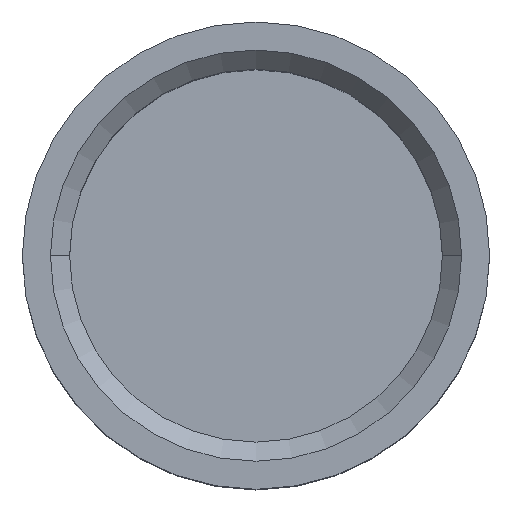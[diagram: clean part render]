
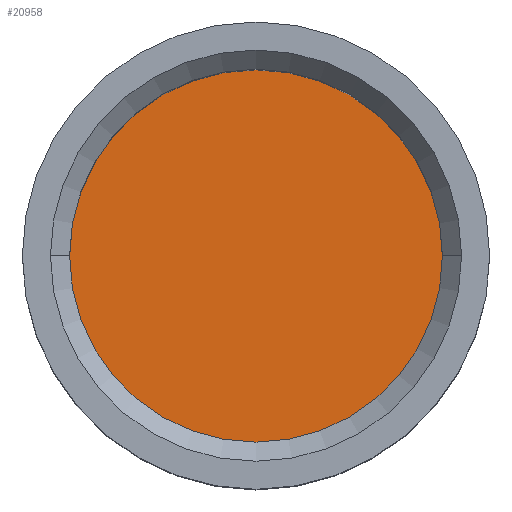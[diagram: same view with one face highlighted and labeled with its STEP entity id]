
A CAD part, top view. The second image highlights one B-rep face of the part: STEP entity #20958.
In plain terms, the highlighted planar face has unit normal (0, 0, 1).
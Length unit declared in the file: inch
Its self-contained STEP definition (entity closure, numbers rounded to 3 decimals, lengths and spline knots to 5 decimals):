
#311 = CIRCLE ( 'NONE', #4980, 0.073 ) ;
#2301 = VERTEX_POINT ( 'NONE', #8454 ) ;
#2744 = AXIS2_PLACEMENT_3D ( 'NONE', #14101, #12513, #9024 ) ;
#3328 = DIRECTION ( 'NONE',  ( 0., 0., 1. ) ) ;
#3596 = CARTESIAN_POINT ( 'NONE',  ( -0.073, 0., -0.14 ) ) ;
#4138 = EDGE_LOOP ( 'NONE', ( #17718, #13011 ) ) ;
#4854 = CARTESIAN_POINT ( 'NONE',  ( 0., 0.073, -0.14 ) ) ;
#4980 = AXIS2_PLACEMENT_3D ( 'NONE', #11884, #3328, #13474 ) ;
#6855 = VERTEX_POINT ( 'NONE', #3596 ) ;
#8454 = CARTESIAN_POINT ( 'NONE',  ( 0.073, 0., -0.14 ) ) ;
#8966 = EDGE_CURVE ( 'NONE', #2301, #6855, #22173, .T. ) ;
#9024 = DIRECTION ( 'NONE',  ( 1., 0., 0. ) ) ;
#9606 = DIRECTION ( 'NONE',  ( -1., 0., 0. ) ) ;
#11619 = FACE_OUTER_BOUND ( 'NONE', #4138, .T. ) ;
#11884 = CARTESIAN_POINT ( 'NONE',  ( 0., 0., -0.14 ) ) ;
#12513 = DIRECTION ( 'NONE',  ( 0., 0., 1. ) ) ;
#13011 = ORIENTED_EDGE ( 'NONE', *, *, #14205, .T. ) ;
#13474 = DIRECTION ( 'NONE',  ( 1., 0., 0. ) ) ;
#13745 = AXIS2_PLACEMENT_3D ( 'NONE', #4854, #14688, #9606 ) ;
#14101 = CARTESIAN_POINT ( 'NONE',  ( 0., 0., -0.14 ) ) ;
#14205 = EDGE_CURVE ( 'NONE', #6855, #2301, #311, .T. ) ;
#14688 = DIRECTION ( 'NONE',  ( 0., 0., -1. ) ) ;
#17718 = ORIENTED_EDGE ( 'NONE', *, *, #8966, .T. ) ;
#18400 = PLANE ( 'NONE',  #13745 ) ;
#20958 = ADVANCED_FACE ( 'NONE', ( #11619 ), #18400, .F. ) ;
#22173 = CIRCLE ( 'NONE', #2744, 0.073 ) ;
